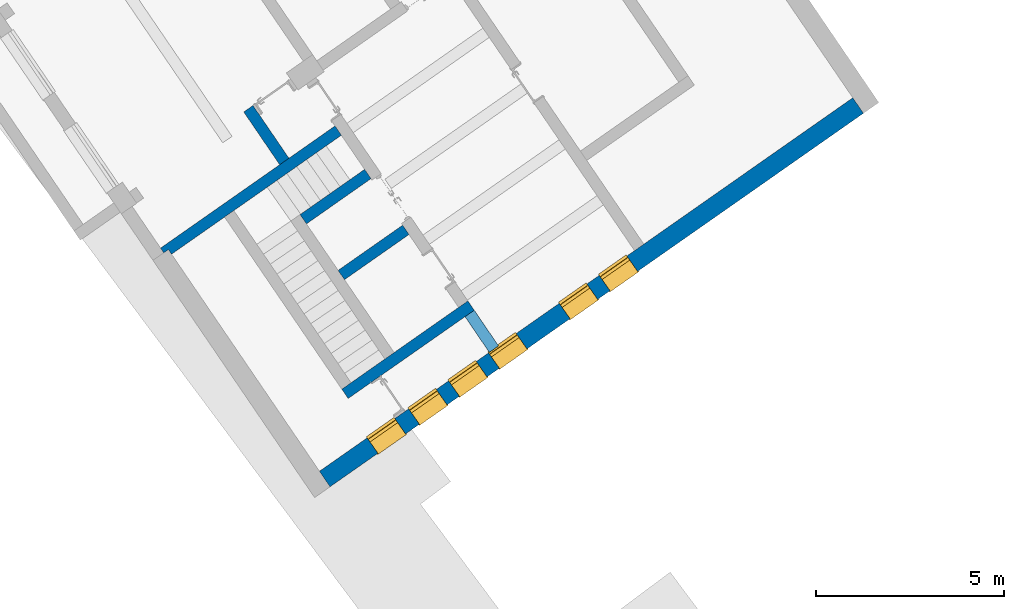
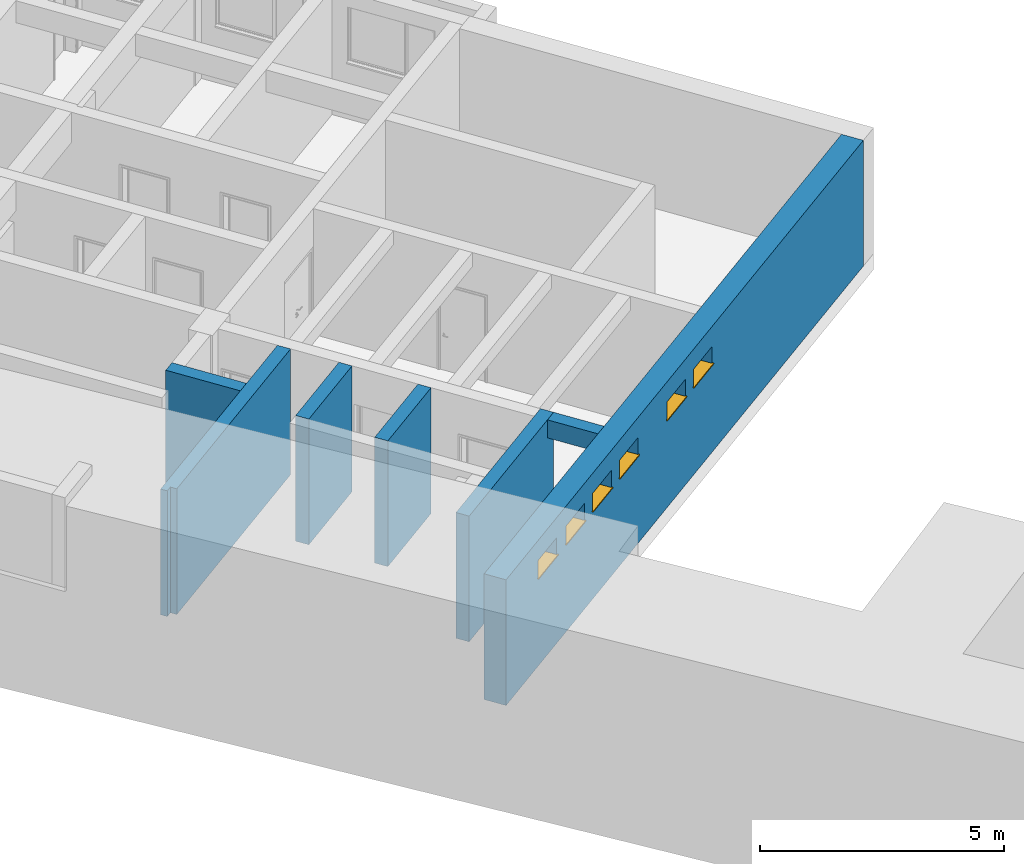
# One storey, part 40 of 112: 7 walls, 6 windows, 6 openings.
"""IFC2X3 building model written with IfcOpenShell, lengths in millimetres."""

import ifcopenshell
import ifcopenshell.guid

model = None  # the IFC model being written
_history = None  # IfcOwnerHistory: only IFC2X3 demands one
_inside = {}  # id of a spatial element -> (the spatial element, [elements in it])
_under = {}  # id of a project, library or spatial element -> (it, [spatial elements below it])
_declared = {}  # id of a project -> (the project, [libraries it declares])
_typed = {}  # id of a type object -> (the type object, [elements of that type])
_made_of = {}  # id of a material, layer set ... -> (it, [elements and type objects made of it])


def new_model(schema):
    """Start an empty IFC model of exactly this schema.

    Asked for "IFC4X3", IfcOpenShell would pick the latest addendum, in which some entities
    have other attributes; the version numbers below select the first issue.
    IFC2X3 requires an IfcOwnerHistory on every rooted entity: one is made here for all.
    """
    global model, _history
    if schema == "IFC4X3":
        model = ifcopenshell.file(schema_version=(4, 3, 0, 0))
    else:
        model = ifcopenshell.file(schema=schema)
    _inside.clear()
    _under.clear()
    _declared.clear()
    _typed.clear()
    _made_of.clear()
    _history = None
    if model.schema == "IFC2X3":
        org = make("IfcOrganization", Name="unknown")
        user = make(
            "IfcPersonAndOrganization",
            ThePerson=make("IfcPerson", FamilyName="unknown"),
            TheOrganization=org,
        )
        app = make(
            "IfcApplication",
            ApplicationDeveloper=org,
            Version="unknown",
            ApplicationFullName="unknown",
            ApplicationIdentifier="unknown",
        )
        _history = make(
            "IfcOwnerHistory",
            OwningUser=user,
            OwningApplication=app,
            ChangeAction="ADDED",
            CreationDate=0,
        )
    return model


def make(cls, **values):
    """One entity of the class cls with the attributes given. An attribute that is None is left unset."""
    return model.create_entity(
        cls, **{name: value for name, value in values.items() if value is not None}
    )


def entity(cls, *values):
    """Any entity or typed value of the class cls, its attributes in the order of the schema. None: left unset."""
    e = model.create_entity(cls)
    for i, value in enumerate(values):
        if value is not None:
            e[i] = value
    return e


def rooted(cls, **values):
    """An entity with a GlobalId (a new one), such as an element, a storey or a relation."""
    return make(cls, GlobalId=ifcopenshell.guid.new(), OwnerHistory=_history, **values)


def si_unit(unit_type, name, prefix=None):
    """IfcSIUnit, for example si_unit("LENGTHUNIT", "METRE", prefix="MILLI")."""
    return make("IfcSIUnit", UnitType=unit_type, Prefix=prefix, Name=name)


def converted_unit(unit_type, name, factor, base, dimensions=None, offset=None):
    """IfcConversionBasedUnit, such as the inch: factor (a typed value) times the base unit."""
    return make(
        "IfcConversionBasedUnit"
        if offset is None
        else "IfcConversionBasedUnitWithOffset",
        ConversionOffset=offset,
        Dimensions=None
        if dimensions is None
        else entity("IfcDimensionalExponents", *dimensions),
        UnitType=unit_type,
        Name=name,
        ConversionFactor=make(
            "IfcMeasureWithUnit", ValueComponent=factor, UnitComponent=base
        ),
    )


def derived_unit(unit_type, elements):
    """IfcDerivedUnit: a product of units, each with its exponent."""
    return make(
        "IfcDerivedUnit",
        Elements=[
            make("IfcDerivedUnitElement", Unit=unit, Exponent=power)
            for unit, power in elements
        ],
        UnitType=unit_type,
    )


def assignment(units):
    """IfcUnitAssignment: the units of a project."""
    return None if units is None else make("IfcUnitAssignment", Units=units)


def point(xyz):
    """IfcCartesianPoint."""
    return None if xyz is None else make("IfcCartesianPoint", Coordinates=xyz)


def direction(xyz):
    """IfcDirection."""
    return None if xyz is None else make("IfcDirection", DirectionRatios=xyz)


def frame(location, z_axis=None, x_axis=None):
    """IfcAxis2Placement3D, a coordinate frame: its origin and axes. An axis left out is left unset."""
    return make(
        "IfcAxis2Placement3D",
        Location=point(location),
        Axis=direction(z_axis),
        RefDirection=direction(x_axis),
    )


def frame_2d(location, x_axis=None):
    """IfcAxis2Placement2D, a coordinate frame in the plane: its origin and x axis."""
    return make(
        "IfcAxis2Placement2D", Location=point(location), RefDirection=direction(x_axis)
    )


def origin():
    """The frame at (0, 0, 0) with its axes left unset."""
    return frame((0.0, 0.0, 0.0))


def place(relative_to, where):
    """IfcLocalPlacement: puts the frame where relative to a parent placement (None: the world)."""
    return make(
        "IfcLocalPlacement", PlacementRelTo=relative_to, RelativePlacement=where
    )


def context(
    kind, dimensions, precision=None, world=None, true_north=None, identifier=None
):
    """IfcGeometricRepresentationContext, for example the 3D "Model" context."""
    return make(
        "IfcGeometricRepresentationContext",
        ContextIdentifier=identifier,
        ContextType=kind,
        CoordinateSpaceDimension=dimensions,
        Precision=precision,
        WorldCoordinateSystem=world,
        TrueNorth=true_north,
    )


def subcontext(parent, identifier, kind, view, scale=None):
    """IfcGeometricRepresentationSubContext, for example "Body" below "Model"."""
    return make(
        "IfcGeometricRepresentationSubContext",
        ContextIdentifier=identifier,
        ContextType=kind,
        ParentContext=parent,
        TargetScale=scale,
        TargetView=view,
    )


def project(units=None, contexts=None):
    """IfcProject with its units and contexts."""
    return rooted(
        "IfcProject",
        Name="project",
        RepresentationContexts=contexts,
        UnitsInContext=assignment(units),
    )


def spatial(cls, under=None, at=None, **own):
    """A site, building, storey or space (cls), placed at a placement, below another one or the project."""
    s = rooted(cls, ObjectPlacement=at, **own)
    if under is not None:
        _under.setdefault(under.id(), (under, []))[1].append(s)
    return s


def polyline(points):
    """IfcPolyline through the points."""
    return make("IfcPolyline", Points=[point(p) for p in points])


def profile(cls, at=None, kind="AREA", **sizes):
    """A parametric profile (cls). Its sizes go by their IFC names, for example OverallWidth=200.0."""
    return make(cls, ProfileType=kind, Position=at, **sizes)


def rectangle(**sizes):
    """IfcRectangleProfileDef."""
    return profile("IfcRectangleProfileDef", **sizes)


def outline(outer, holes=None, kind="AREA"):
    """IfcArbitraryClosedProfileDef: a profile drawn as a closed curve; with holes, ...WithVoids."""
    if holes is None:
        return make("IfcArbitraryClosedProfileDef", ProfileType=kind, OuterCurve=outer)
    return make(
        "IfcArbitraryProfileDefWithVoids",
        ProfileType=kind,
        OuterCurve=outer,
        InnerCurves=holes,
    )


def extrude(swept, where, along, depth):
    """IfcExtrudedAreaSolid: the profile swept, set in the frame where, extruded along a direction by depth."""
    return make(
        "IfcExtrudedAreaSolid",
        SweptArea=swept,
        Position=where,
        ExtrudedDirection=direction(along),
        Depth=depth,
    )


def faces_of(points, faces, orient=None, outer=None):
    """IfcFace entities. A face is a list of loops; a loop is a list of indices into points, from 0.

    orient and outer hold one flag for each loop. By default every Orientation is true, the
    first loop of a face is its IfcFaceOuterBound and the others are IfcFaceBound.
    """
    made = []
    for i, loops in enumerate(faces):
        bounds = []
        for j, loop in enumerate(loops):
            is_outer = j == 0 if outer is None else outer[i][j]
            bounds.append(
                make(
                    "IfcFaceOuterBound" if is_outer else "IfcFaceBound",
                    Bound=make("IfcPolyLoop", Polygon=[points[k] for k in loop]),
                    Orientation=True if orient is None else orient[i][j],
                )
            )
        made.append(make("IfcFace", Bounds=bounds))
    return made


def faceted_brep(points, faces, orient=None, outer=None, voids=None):
    """IfcFacetedBrep: a solid bounded by flat faces; with voids (closed shells), ...WithVoids."""
    shared = [point(p) for p in points]
    hull = make("IfcClosedShell", CfsFaces=faces_of(shared, faces, orient, outer))
    if voids is None:
        return make("IfcFacetedBrep", Outer=hull)
    return make(
        "IfcFacetedBrepWithVoids",
        Outer=hull,
        Voids=[
            make(cls, CfsFaces=faces_of(shared, fs, o, b)) for cls, fs, o, b in voids
        ],
    )


def shape(context_of_items, identifier, shape_type, items):
    """IfcShapeRepresentation: the items that make up one representation, for example the "Body"."""
    return make(
        "IfcShapeRepresentation",
        ContextOfItems=context_of_items,
        RepresentationIdentifier=identifier,
        RepresentationType=shape_type,
        Items=items,
    )


def source(mapping_origin, context_of_items, identifier, shape_type, items):
    """IfcRepresentationMap: a shape defined once, which mapped items show again and again."""
    return make(
        "IfcRepresentationMap",
        MappingOrigin=mapping_origin,
        MappedRepresentation=shape(context_of_items, identifier, shape_type, items),
    )


def transform(
    local_origin,
    x_axis=None,
    y_axis=None,
    z_axis=None,
    scale=None,
    scale2=None,
    scale3=None,
    uniform=True,
):
    """IfcCartesianTransformationOperator3D, or its non-uniform kind. x_axis, y_axis, z_axis: its Axis1, 2, 3."""
    if uniform:
        return make(
            "IfcCartesianTransformationOperator3D",
            Axis1=direction(x_axis),
            Axis2=direction(y_axis),
            LocalOrigin=point(local_origin),
            Scale=scale,
            Axis3=direction(z_axis),
        )
    return make(
        "IfcCartesianTransformationOperator3DnonUniform",
        Axis1=direction(x_axis),
        Axis2=direction(y_axis),
        LocalOrigin=point(local_origin),
        Scale=scale,
        Axis3=direction(z_axis),
        Scale2=scale2,
        Scale3=scale3,
    )


def mapped(mapping_source, mapping_target):
    """IfcMappedItem: shows the shape of a source again, moved by a transform."""
    return make(
        "IfcMappedItem", MappingSource=mapping_source, MappingTarget=mapping_target
    )


def material(Name=None, Category=None):
    """IfcMaterial."""
    return make("IfcMaterial", Name=Name, Category=Category)


def material_list(materials):
    """IfcMaterialList."""
    return make("IfcMaterialList", Materials=materials)


def layer(
    of_material, thickness, ventilated=None, Name=None, Category=None, Priority=None
):
    """IfcMaterialLayer: one layer of a wall or slab, of a material (None: an air gap)."""
    return make(
        "IfcMaterialLayer",
        Material=of_material,
        LayerThickness=thickness,
        IsVentilated=ventilated,
        Name=Name,
        Category=Category,
        Priority=Priority,
    )


def layer_set(layers, Name=None):
    """IfcMaterialLayerSet."""
    return make("IfcMaterialLayerSet", MaterialLayers=layers, LayerSetName=Name)


def layer_usage(for_layer_set, set_direction, sense, offset, extent=None):
    """IfcMaterialLayerSetUsage: how a layer set lies in its element."""
    return make(
        "IfcMaterialLayerSetUsage",
        ForLayerSet=for_layer_set,
        LayerSetDirection=set_direction,
        DirectionSense=sense,
        OffsetFromReferenceLine=offset,
        ReferenceExtent=extent,
    )


def made_of(thing, what):
    """Note that an element or type object is made of a material, layer set ...; save() writes the relation."""
    if what is not None:
        _made_of.setdefault(what.id(), (what, []))[1].append(thing)
    return thing


def type_object(cls, material=None, **own):
    """A type object (cls), such as IfcWallType, which elements share."""
    return made_of(rooted(cls, **own), material)


def type_shapes(of_type, sources):
    """Give a type object the sources (RepresentationMaps) that its elements show as mapped items."""
    of_type.RepresentationMaps = sources


def element(
    cls,
    number,
    at=None,
    inside=None,
    cuts=None,
    type_object=None,
    material=None,
    context=None,
    identifier="Body",
    shape_type=None,
    held_by="IfcProductDefinitionShape",
    body=None,
    shapes=None,
    **own,
):
    """One element of the class cls, such as IfcWall. Its Tag is "e" and its number.

    at: its placement. inside: the storey or other place that contains it. cuts: it is an
    opening in that element (IfcRelVoidsElement). A single representation is given by context,
    identifier, shape_type and body (its items); several are given by shapes. held_by: the class
    of the entity that holds the representations. save() writes the other relations.
    """
    e = rooted(cls, Tag="e%d" % number, ObjectPlacement=at, **own)
    if body is not None:
        shapes = [shape(context, identifier, shape_type, body)]
    if shapes is not None:
        e.Representation = make(held_by, Representations=shapes)
    if inside is not None:
        _inside.setdefault(inside.id(), (inside, []))[1].append(e)
    if cuts is not None:
        rooted(
            "IfcRelVoidsElement", RelatingBuildingElement=cuts, RelatedOpeningElement=e
        )
    if type_object is not None:
        _typed.setdefault(type_object.id(), (type_object, []))[1].append(e)
    return made_of(e, material)


def fill(opening, filler):
    """IfcRelFillsElement: the door or window that sits in an opening."""
    return rooted(
        "IfcRelFillsElement",
        RelatingOpeningElement=opening,
        RelatedBuildingElement=filler,
    )


def aggregate(whole, parts):
    """IfcRelAggregates: a whole, such as a stair, and the parts it consists of."""
    return rooted("IfcRelAggregates", RelatingObject=whole, RelatedObjects=parts)


def save(model, path):
    """Write the relations noted so far, then the file.

    IfcRelAggregates (storeys below a building ...), IfcRelContainedInSpatialStructure (elements
    in a storey), IfcRelDefinesByType, IfcRelAssociatesMaterial and IfcRelDeclares: one each for
    every whole, place, type object, material and project.
    """
    for whole, parts in _under.values():
        aggregate(whole, parts)
    for where, things in _inside.values():
        rooted(
            "IfcRelContainedInSpatialStructure",
            RelatedElements=things,
            RelatingStructure=where,
        )
    for kind, things in _typed.values():
        rooted("IfcRelDefinesByType", RelatedObjects=things, RelatingType=kind)
    for what, things in _made_of.values():
        rooted("IfcRelAssociatesMaterial", RelatedObjects=things, RelatingMaterial=what)
    for by, libraries in _declared.values():
        rooted("IfcRelDeclares", RelatingContext=by, RelatedDefinitions=libraries)
    model.write(path)


model = new_model("IFC2X3")

# Units and contexts
model_context = context("Model", 3, precision=0.01, world=origin(), true_north=direction((6.123031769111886e-17, 1.0)))
body_context = subcontext(model_context, "Body", "Model", "MODEL_VIEW")
ifc_project = project(units=[si_unit("LENGTHUNIT", "METRE", prefix="MILLI"), si_unit("AREAUNIT", "SQUARE_METRE"), si_unit("VOLUMEUNIT", "CUBIC_METRE"), converted_unit("PLANEANGLEUNIT", "DEGREE", entity("IfcRatioMeasure", 0.017453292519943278), si_unit("PLANEANGLEUNIT", "RADIAN"), dimensions=[0, 0, 0, 0, 0, 0, 0]), si_unit("MASSUNIT", "GRAM", prefix="KILO"), derived_unit("MASSDENSITYUNIT", [(si_unit("MASSUNIT", "GRAM", prefix="KILO"), 1), (si_unit("LENGTHUNIT", "METRE"), -3)]), derived_unit("MOMENTOFINERTIAUNIT", [(si_unit("LENGTHUNIT", "METRE"), 4)]), si_unit("TIMEUNIT", "SECOND"), si_unit("FREQUENCYUNIT", "HERTZ"), si_unit("THERMODYNAMICTEMPERATUREUNIT", "DEGREE_CELSIUS"), derived_unit("THERMALTRANSMITTANCEUNIT", [(si_unit("MASSUNIT", "GRAM", prefix="KILO"), 1), (si_unit("THERMODYNAMICTEMPERATUREUNIT", "KELVIN"), -1), (si_unit("TIMEUNIT", "SECOND"), -3)]), derived_unit("THERMALCONDUCTANCEUNIT", [(si_unit("MASSUNIT", "GRAM", prefix="KILO"), 1), (si_unit("LENGTHUNIT", "METRE"), 1), (si_unit("THERMODYNAMICTEMPERATUREUNIT", "KELVIN"), -1), (si_unit("TIMEUNIT", "SECOND"), -3)]), derived_unit("VOLUMETRICFLOWRATEUNIT", [(si_unit("LENGTHUNIT", "METRE"), 3), (si_unit("TIMEUNIT", "SECOND"), -1)]), derived_unit("MASSFLOWRATEUNIT", [(si_unit("MASSUNIT", "GRAM", prefix="KILO"), 1), (si_unit("TIMEUNIT", "SECOND"), -1)]), derived_unit("ROTATIONALFREQUENCYUNIT", [(si_unit("TIMEUNIT", "SECOND"), -1)]), si_unit("ELECTRICCURRENTUNIT", "AMPERE"), si_unit("ELECTRICVOLTAGEUNIT", "VOLT"), si_unit("POWERUNIT", "WATT"), converted_unit("FORCEUNIT", "KIP", entity("IfcRatioMeasure", 2.088543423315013e-05), si_unit("FORCEUNIT", "NEWTON"), dimensions=[1, 1, -2, 0, 0, 0, 0]), si_unit("ILLUMINANCEUNIT", "LUX"), si_unit("LUMINOUSFLUXUNIT", "LUMEN"), si_unit("LUMINOUSINTENSITYUNIT", "CANDELA"), derived_unit("USERDEFINED", [(si_unit("MASSUNIT", "GRAM", prefix="KILO"), -1), (si_unit("LENGTHUNIT", "METRE"), -2), (si_unit("TIMEUNIT", "SECOND"), 3), (si_unit("LUMINOUSFLUXUNIT", "LUMEN"), 1)]), derived_unit("USERDEFINED", [(si_unit("MASSUNIT", "GRAM", prefix="KILO"), 1), (si_unit("LENGTHUNIT", "METRE"), 3), (si_unit("TIMEUNIT", "SECOND"), -3), (si_unit("ELECTRICCURRENTUNIT", "AMPERE"), -2)]), derived_unit("USERDEFINED", [(si_unit("LENGTHUNIT", "METRE"), 2), (si_unit("TIMEUNIT", "SECOND"), -2)]), derived_unit("SOUNDPOWERUNIT", [(si_unit("MASSUNIT", "GRAM", prefix="KILO"), 1), (si_unit("LENGTHUNIT", "METRE"), 2), (si_unit("TIMEUNIT", "SECOND"), -3)]), derived_unit("SOUNDPRESSUREUNIT", [(si_unit("MASSUNIT", "GRAM", prefix="KILO"), 1), (si_unit("LENGTHUNIT", "METRE"), -1), (si_unit("TIMEUNIT", "SECOND"), -2)]), derived_unit("LINEARVELOCITYUNIT", [(si_unit("LENGTHUNIT", "METRE"), 1), (si_unit("TIMEUNIT", "SECOND"), -1)]), si_unit("PRESSUREUNIT", "PASCAL"), derived_unit("USERDEFINED", [(si_unit("LENGTHUNIT", "METRE"), -2), (si_unit("MASSUNIT", "GRAM", prefix="KILO"), 1), (si_unit("TIMEUNIT", "SECOND"), -2)]), derived_unit("LINEARFORCEUNIT", [(si_unit("MASSUNIT", "GRAM", prefix="KILO"), 1), (si_unit("LENGTHUNIT", "METRE"), 1), (si_unit("TIMEUNIT", "SECOND"), -2), (si_unit("LENGTHUNIT", "METRE"), -1)]), derived_unit("PLANARFORCEUNIT", [(si_unit("MASSUNIT", "GRAM", prefix="KILO"), 1), (si_unit("LENGTHUNIT", "METRE"), 1), (si_unit("TIMEUNIT", "SECOND"), -2), (si_unit("LENGTHUNIT", "METRE"), -2)]), derived_unit("SPECIFICHEATCAPACITYUNIT", [(si_unit("LENGTHUNIT", "METRE"), 2), (si_unit("TIMEUNIT", "SECOND"), -2), (si_unit("THERMODYNAMICTEMPERATUREUNIT", "KELVIN"), -1)]), derived_unit("VAPORPERMEABILITYUNIT", [(si_unit("TIMEUNIT", "SECOND"), 1), (si_unit("LENGTHUNIT", "METRE"), -1)]), derived_unit("DYNAMICVISCOSITYUNIT", [(si_unit("MASSUNIT", "GRAM", prefix="KILO"), 1), (si_unit("LENGTHUNIT", "METRE"), -1), (si_unit("TIMEUNIT", "SECOND"), -1)]), derived_unit("THERMALEXPANSIONCOEFFICIENTUNIT", [(si_unit("THERMODYNAMICTEMPERATUREUNIT", "KELVIN"), -1)])], contexts=[model_context])

# Site, building, storey
site_placement = place(None, frame((0.0, 0.0, 0.0), z_axis=(0.0, 0.0, 1.0), x_axis=(0.8191520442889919, 0.5735764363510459, 0.0)))
site = spatial("IfcSite", under=ifc_project, at=site_placement, Name="Default", CompositionType="ELEMENT")
building_placement = place(site_placement, origin())
building = spatial("IfcBuilding", under=site, at=building_placement, CompositionType="ELEMENT")
storey_placement = place(building_placement, frame((0.0, 0.0, -3600.0)))
storey = spatial("IfcBuildingStorey", under=building, at=storey_placement, Name="0.UG -3.60", CompositionType="ELEMENT", Elevation=-3600.0000000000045)

# Walls
ifc_material_1 = material(Name="Analytical Wall Surface_CJC")
ifc_layer_1 = layer(ifc_material_1, 300.0)
ifc_layer_set_1 = layer_set([ifc_layer_1], Name="Basic Wall:Wand_Innen_30")
ifc_layer_usage_1 = layer_usage(ifc_layer_set_1, "AXIS2", "NEGATIVE", 150.0)
wall_type_1 = type_object("IfcWallType", Name="Basic Wall:Wand_Innen_30", PredefinedType="STANDARD", material=ifc_layer_set_1)
wall_1_placement = place(storey_placement, frame((-217783.48677520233, 59721.3589143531, 300.0), z_axis=(0.0, 0.0, 1.0), x_axis=(-1.0, 0.0, 0.0)))
element("IfcWallStandardCase", 1, at=wall_1_placement, inside=storey, type_object=wall_type_1, material=ifc_layer_usage_1, Name="Basic Wall:Wand_Innen_30", ObjectType="Basic Wall:Wand_Innen_30", context=body_context, shape_type="SweptSolid", body=[
    extrude(outline(polyline([(5675.398388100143, -150.0), (5677.33634069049, 2.227677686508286), (5527.336340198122, 3.1823967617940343), (5529.205419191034, 150.0), (3804.127103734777, 150.0), (3504.1027944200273, 150.0), (3.8191857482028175, 150.0), (0.0, -150.0), (1500.1215465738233, -150.0), (1800.1458558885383, -150.0), (5675.398388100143, -150.0)])), origin(), (0.0, 0.0, 1.0), 3150.0),
])
wall_2_placement = place(storey_placement, frame((-217726.4324487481, 52569.449476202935, 3000.0), z_axis=(0.0, 0.0, 1.0), x_axis=(0.01272958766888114, 0.9999189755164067, 0.0)))
element("IfcWallStandardCase", 2, at=wall_2_placement, inside=storey, type_object=wall_type_1, material=ifc_layer_usage_1, Name="Basic Wall:Wand_Innen_30", ObjectType="Basic Wall:Wand_Innen_30", context=body_context, shape_type="SweptSolid", body=[
    extrude(outline(polyline([(1153.9123714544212, -150.0), (1150.0931857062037, 150.0), (0.0, 150.0), (3.819185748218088, -150.0), (1153.9123714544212, -150.0)])), origin(), (0.0, 0.0, 1.0), 450.00000000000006),
])

# Wall, openings, windows
ifc_layer_2 = layer(ifc_material_1, 500.00000000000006)
ifc_layer_set_2 = layer_set([ifc_layer_2], Name="Basic Wall:Wand_Aussen_50")
ifc_layer_usage_2 = layer_usage(ifc_layer_set_2, "AXIS2", "NEGATIVE", 250.00000000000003)
wall_type_2 = type_object("IfcWallType", Name="Basic Wall:Wand_Aussen_50", PredefinedType="STANDARD", material=ifc_layer_set_2)
wall_3_placement = place(storey_placement, frame((-206050.46223060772, 52321.35891435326, 300.0), z_axis=(0.0, 0.0, 1.0), x_axis=(-1.0, 0.0, 0.0)))
wall_3 = element("IfcWallStandardCase", 3, at=wall_3_placement, inside=storey, type_object=wall_type_2, material=ifc_layer_usage_2, Name="Basic Wall:Wand_Aussen_50", ObjectType="Basic Wall:Wand_Aussen_50", context=body_context, shape_type="SweptSolid", body=[
    extrude(outline(polyline([(17351.34429791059, -250.0), (17357.70960749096, 250.0), (6.36518024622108, 250.0), (0.0, -250.0), (6800.550883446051, -250.0), (7100.5751927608, -250.0), (14576.180899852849, -250.0), (14876.205209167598, -250.0), (17351.34429791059, -250.0)])), origin(), (0.0, 0.0, 1.0), 3150.0),
])
opening_1_placement = place(wall_3_placement, frame((14450.773718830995, 250.0, 2200.0)))
opening_1 = element("IfcOpeningElement", 4, at=opening_1_placement, cuts=wall_3, Name="Windows_Sgl_Plain:90x45:1", ObjectType="Opening", context=body_context, shape_type="SweptSolid", body=[
    extrude(rectangle(XDim=450.00000000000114, YDim=900.0000000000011, at=frame_2d((225.00000000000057, 450.00000000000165), x_axis=(-1.0, 0.0))), frame((0.0, 0.0, 0.0), z_axis=(0.0, -1.0, 0.0), x_axis=(0.0, 0.0, 1.0)), (0.0, 0.0, 1.0), 500.00000000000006),
])
opening_2_placement = place(wall_3_placement, frame((9550.773718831, 250.0, 2200.0)))
opening_2 = element("IfcOpeningElement", 5, at=opening_2_placement, cuts=wall_3, Name="Windows_Sgl_Plain:90x45:1", ObjectType="Opening", context=body_context, shape_type="SweptSolid", body=[
    extrude(rectangle(XDim=450.00000000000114, YDim=900.0000000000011, at=frame_2d((225.00000000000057, 450.00000000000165), x_axis=(-1.0, 0.0))), frame((0.0, 0.0, 0.0), z_axis=(0.0, -1.0, 0.0), x_axis=(0.0, 0.0, 1.0)), (0.0, 0.0, 1.0), 500.00000000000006),
])
opening_3_placement = place(wall_3_placement, frame((8250.773718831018, 250.0, 2200.0)))
opening_3 = element("IfcOpeningElement", 6, at=opening_3_placement, cuts=wall_3, Name="Windows_Sgl_Plain:90x45:1", ObjectType="Opening", context=body_context, shape_type="SweptSolid", body=[
    extrude(rectangle(XDim=450.00000000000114, YDim=900.0000000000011, at=frame_2d((225.00000000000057, 450.00000000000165), x_axis=(-1.0, 0.0))), frame((0.0, 0.0, 0.0), z_axis=(0.0, -1.0, 0.0), x_axis=(0.0, 0.0, 1.0)), (0.0, 0.0, 1.0), 500.00000000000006),
])
opening_4_placement = place(wall_3_placement, frame((11850.773718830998, 250.0, 2200.0)))
opening_4 = element("IfcOpeningElement", 7, at=opening_4_placement, cuts=wall_3, Name="Windows_Sgl_Plain:90x45:1", ObjectType="Opening", context=body_context, shape_type="SweptSolid", body=[
    extrude(rectangle(XDim=450.00000000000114, YDim=900.0000000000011, at=frame_2d((225.00000000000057, 450.00000000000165), x_axis=(-1.0, 0.0))), frame((0.0, 0.0, 0.0), z_axis=(0.0, -1.0, 0.0), x_axis=(0.0, 0.0, 1.0)), (0.0, 0.0, 1.0), 500.00000000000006),
])
opening_5_placement = place(wall_3_placement, frame((13150.773718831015, 250.0, 2200.0)))
opening_5 = element("IfcOpeningElement", 8, at=opening_5_placement, cuts=wall_3, Name="Windows_Sgl_Plain:90x45:1", ObjectType="Opening", context=body_context, shape_type="SweptSolid", body=[
    extrude(rectangle(XDim=450.00000000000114, YDim=900.0000000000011, at=frame_2d((225.00000000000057, 450.00000000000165), x_axis=(-1.0, 0.0))), frame((0.0, 0.0, 0.0), z_axis=(0.0, -1.0, 0.0), x_axis=(0.0, 0.0, 1.0)), (0.0, 0.0, 1.0), 500.00000000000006),
])
opening_6_placement = place(wall_3_placement, frame((15800.773718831, 250.0, 2200.0)))
opening_6 = element("IfcOpeningElement", 9, at=opening_6_placement, cuts=wall_3, Name="Windows_Sgl_Plain:90x45:1", ObjectType="Opening", context=body_context, shape_type="SweptSolid", body=[
    extrude(rectangle(XDim=450.00000000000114, YDim=900.0000000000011, at=frame_2d((225.00000000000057, 450.00000000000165), x_axis=(-1.0, 0.0))), frame((0.0, 0.0, 0.0), z_axis=(0.0, -1.0, 0.0), x_axis=(0.0, 0.0, 1.0)), (0.0, 0.0, 1.0), 500.00000000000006),
])
ifc_material_2 = material(Name="Window Frame")
ifc_material_3 = material(Name="Glass")
ifc_material_list = material_list([ifc_material_2, ifc_material_3])
window_style = type_object("IfcWindowStyle", Name="Windows_Sgl_Plain:90x45", ConstructionType="NOTDEFINED", OperationType="SINGLE_PANEL", ParameterTakesPrecedence=False, Sizeable=False, material=ifc_material_list)
shared_shape = source(origin(), body_context, "Body", "Brep", [
    faceted_brep([(-25.0, -25.0, 0.0), (-25.0, 0.0, 0.0), (0.0, 0.0, 0.0), (0.0, 367.0, 0.0), (900.0, 367.0, 0.0), (900.0, 0.0, 0.0), (925.0, 0.0, 0.0), (925.0, -25.0, 0.0), (-25.0, -25.0, 25.0), (925.0, -25.0, 25.0), (925.0, 0.0, 25.0), (900.0, 0.0, 25.0), (900.0, 367.0, 25.0), (0.0, 367.0, 25.0), (0.0, 0.0, 25.0), (-25.0, 0.0, 25.0)], [[[0, 1, 2, 3, 4, 5, 6, 7]], [[8, 9, 10, 11, 12, 13, 14, 15]], [[1, 0, 8, 15]], [[2, 1, 15, 14]], [[3, 2, 14, 13]], [[4, 3, 13, 12]], [[5, 4, 12, 11]], [[6, 5, 11, 10]], [[7, 6, 10, 9]], [[0, 7, 9, 8]]]),
    faceted_brep([(0.0, 367.0, 0.0), (900.0, 367.0, 0.0), (900.0, 367.0, 450.0), (0.0, 367.0, 450.0), (60.0, 367.0, 390.0), (840.0, 367.0, 390.0), (840.0, 367.0, 75.0), (60.0, 367.0, 75.0), (0.0, 450.0, 450.0), (0.0, 450.0, 51.0), (0.0, 465.0, 49.687670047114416), (0.0, 465.0, 44.74496761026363), (0.0, 537.50000000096, 33.80888466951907), (0.0, 537.50000000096, 0.0), (900.0, 450.0, 450.0), (900.0, 450.0, 51.0), (40.0, 450.0, 410.0), (40.0, 450.0, 63.0), (860.0, 450.0, 63.0), (860.0, 450.0, 410.0), (40.0, 385.0, 410.0), (40.0, 385.0, 63.0), (60.0, 385.0, 390.0), (60.0, 385.0, 75.0), (840.0, 385.0, 75.0), (840.0, 385.0, 390.0), (860.0, 385.0, 410.0), (860.0, 385.0, 63.0), (900.0, 537.50000000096, 0.0), (900.0, 537.50000000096, 33.80888466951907), (900.0, 465.0, 44.74496761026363), (900.0, 465.0, 49.687670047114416)], [[[0, 1, 2, 3], [4, 5, 6, 7]], [[0, 3, 8, 9, 10, 11, 12, 13]], [[9, 8, 14, 15], [16, 17, 18, 19]], [[17, 16, 20, 21]], [[22, 23, 24, 25], [20, 26, 27, 21]], [[22, 4, 7, 23]], [[3, 2, 14, 8]], [[16, 19, 26, 20]], [[5, 4, 22, 25]], [[15, 14, 2, 1, 28, 29, 30, 31]], [[19, 18, 27, 26]], [[5, 25, 24, 6]], [[28, 1, 0, 13]], [[29, 28, 13, 12]], [[30, 29, 12, 11]], [[31, 30, 11, 10]], [[15, 31, 10, 9]], [[21, 27, 18, 17]], [[7, 6, 24, 23]]], outer=[[True, False], [True], [True, False], [True], [False, True], [True], [True], [True], [True], [True], [True], [True], [True], [True], [True], [True], [True], [True], [True]]),
    faceted_brep([(70.0, 414.0, 93.0), (830.0, 414.0, 93.0), (830.0, 414.0, 380.0), (70.0, 414.0, 380.0), (70.0, 438.0, 93.0), (70.0, 438.0, 380.0), (830.0, 438.0, 380.0), (830.0, 438.0, 93.0)], [[[0, 1, 2, 3]], [[4, 5, 6, 7]], [[1, 0, 4, 7]], [[2, 1, 7, 6]], [[3, 2, 6, 5]], [[0, 3, 5, 4]]]),
    faceted_brep([(30.0, 450.0, 420.0), (30.0, 455.7735026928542, 420.0), (30.0, 455.7735026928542, 53.0), (30.0, 450.0, 53.0), (40.0, 385.0, 410.0), (40.0, 450.0, 410.0), (40.0, 450.0, 63.0), (40.0, 385.0, 63.0), (80.0, 399.4928998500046, 370.0), (69.85196227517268, 385.0, 380.1480377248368), (69.85196227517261, 385.0, 92.85196227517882), (80.0, 399.49289985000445, 103.0), (80.0, 414.0, 370.0), (80.0, 414.0, 103.0), (70.0, 438.0, 380.0), (70.0, 414.0, 380.0), (70.0, 414.0, 93.0), (70.0, 438.0, 93.0), (80.0, 455.7735026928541, 370.0), (80.0, 438.0, 370.0), (80.0, 438.0, 103.0), (80.0, 455.7735026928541, 103.0), (62.55424519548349, 461.5470053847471, 387.4457548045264), (62.554245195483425, 461.54700538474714, 85.5542451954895), (40.784609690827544, 461.54700538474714, 409.2153903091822), (40.784609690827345, 461.5470053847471, 63.78460969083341), (870.0, 455.77350269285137, 53.0), (870.0, 450.0, 53.0), (860.0, 450.0, 63.0), (860.0, 385.0, 63.0), (830.1480377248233, 385.0, 92.85196227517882), (820.0, 399.492899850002, 103.0), (820.0, 414.0, 103.0), (830.0, 414.0, 93.0), (830.0, 438.0, 93.0), (820.0, 438.0, 103.0), (820.0, 455.77350269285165, 103.0), (837.4457548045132, 461.5470053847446, 85.55424519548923), (859.2153903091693, 461.54700538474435, 63.78460969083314), (870.0, 455.77350269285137, 420.0), (870.0, 450.0, 420.0), (860.0, 450.0, 410.0), (860.0, 385.0, 410.0), (830.1480377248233, 385.0, 380.1480377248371), (820.0, 399.492899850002, 370.0), (820.0, 414.0, 370.0), (830.0, 414.0, 380.0), (830.0, 438.0, 380.0), (820.0, 438.0, 370.0), (820.0, 455.77350269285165, 370.0), (837.4457548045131, 461.5470053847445, 387.4457548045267), (859.215390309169, 461.5470053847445, 409.2153903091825)], [[[0, 1, 2, 3]], [[4, 5, 6, 7]], [[8, 9, 10, 11]], [[12, 8, 11, 13]], [[14, 15, 16, 17]], [[18, 19, 20, 21]], [[22, 18, 21, 23]], [[1, 24, 25, 2]], [[3, 2, 26, 27]], [[7, 6, 28, 29]], [[11, 10, 30, 31]], [[13, 11, 31, 32]], [[17, 16, 33, 34]], [[21, 20, 35, 36]], [[23, 21, 36, 37]], [[2, 25, 38, 26]], [[27, 26, 39, 40]], [[29, 28, 41, 42]], [[31, 30, 43, 44]], [[32, 31, 44, 45]], [[34, 33, 46, 47]], [[36, 35, 48, 49]], [[37, 36, 49, 50]], [[26, 38, 51, 39]], [[40, 39, 1, 0]], [[3, 27, 40, 0], [5, 41, 28, 6]], [[42, 41, 5, 4]], [[7, 29, 42, 4], [9, 43, 30, 10]], [[44, 43, 9, 8]], [[45, 44, 8, 12]], [[13, 32, 45, 12], [15, 46, 33, 16]], [[47, 46, 15, 14]], [[17, 34, 47, 14], [19, 48, 35, 20]], [[49, 48, 19, 18]], [[50, 49, 18, 22]], [[23, 37, 50, 22], [24, 51, 38, 25]], [[39, 51, 24, 1]]], outer=[[True], [True], [True], [True], [True], [True], [True], [True], [True], [True], [True], [True], [True], [True], [True], [True], [True], [True], [True], [True], [True], [True], [True], [True], [True], [True, False], [True], [True, False], [True], [True], [False, True], [True], [True, False], [True], [True], [False, True], [True]]),
])
type_shapes(window_style, [shared_shape])
window_1_placement = place(opening_2_placement, frame((0.0, 0.0, 0.0), z_axis=(0.0, 0.0, 1.0), x_axis=(-1.0, 0.0, 0.0)))
window_1 = element("IfcWindow", 10, at=window_1_placement, inside=storey, type_object=window_style, material=ifc_material_list, Name="Windows_Sgl_Plain:90x45", ObjectType="Windows_Sgl_Plain:90x45", OverallHeight=450.00000000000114, OverallWidth=900.0000000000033, context=body_context, shape_type="MappedRepresentation", body=[
    mapped(shared_shape, transform((0.0, 0.0, 0.0), scale=1.0)),
])
fill(opening_2, window_1)
window_2_placement = place(opening_3_placement, frame((0.0, 0.0, 0.0), z_axis=(0.0, 0.0, 1.0), x_axis=(-1.0, 0.0, 0.0)))
window_2 = element("IfcWindow", 11, at=window_2_placement, inside=storey, type_object=window_style, material=ifc_material_list, Name="Windows_Sgl_Plain:90x45", ObjectType="Windows_Sgl_Plain:90x45", OverallHeight=450.00000000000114, OverallWidth=900.0000000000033, context=body_context, shape_type="MappedRepresentation", body=[
    mapped(shared_shape, transform((0.0, 0.0, 0.0), scale=1.0)),
])
fill(opening_3, window_2)
window_3_placement = place(opening_4_placement, frame((0.0, 0.0, 0.0), z_axis=(0.0, 0.0, 1.0), x_axis=(-1.0, 0.0, 0.0)))
window_3 = element("IfcWindow", 12, at=window_3_placement, inside=storey, type_object=window_style, material=ifc_material_list, Name="Windows_Sgl_Plain:90x45", ObjectType="Windows_Sgl_Plain:90x45", OverallHeight=450.00000000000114, OverallWidth=900.0000000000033, context=body_context, shape_type="MappedRepresentation", body=[
    mapped(shared_shape, transform((0.0, 0.0, 0.0), scale=1.0)),
])
fill(opening_4, window_3)
window_4_placement = place(opening_5_placement, frame((0.0, 0.0, 0.0), z_axis=(0.0, 0.0, 1.0), x_axis=(-1.0, 0.0, 0.0)))
window_4 = element("IfcWindow", 13, at=window_4_placement, inside=storey, type_object=window_style, material=ifc_material_list, Name="Windows_Sgl_Plain:90x45", ObjectType="Windows_Sgl_Plain:90x45", OverallHeight=450.00000000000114, OverallWidth=900.0000000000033, context=body_context, shape_type="MappedRepresentation", body=[
    mapped(shared_shape, transform((0.0, 0.0, 0.0), scale=1.0)),
])
fill(opening_5, window_4)
window_5_placement = place(opening_1_placement, frame((0.0, 0.0, 0.0), z_axis=(0.0, 0.0, 1.0), x_axis=(-1.0, 0.0, 0.0)))
window_5 = element("IfcWindow", 14, at=window_5_placement, inside=storey, type_object=window_style, material=ifc_material_list, Name="Windows_Sgl_Plain:90x45", ObjectType="Windows_Sgl_Plain:90x45", OverallHeight=450.00000000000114, OverallWidth=900.0000000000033, context=body_context, shape_type="MappedRepresentation", body=[
    mapped(shared_shape, transform((0.0, 0.0, 0.0), scale=1.0)),
])
fill(opening_1, window_5)
window_6_placement = place(opening_6_placement, frame((0.0, 0.0, 0.0), z_axis=(0.0, 0.0, 1.0), x_axis=(-1.0, 0.0, 0.0)))
window_6 = element("IfcWindow", 15, at=window_6_placement, inside=storey, type_object=window_style, material=ifc_material_list, Name="Windows_Sgl_Plain:90x45", ObjectType="Windows_Sgl_Plain:90x45", OverallHeight=450.00000000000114, OverallWidth=900.0000000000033, context=body_context, shape_type="MappedRepresentation", body=[
    mapped(shared_shape, transform((0.0, 0.0, 0.0), scale=1.0)),
])
fill(opening_6, window_6)

# Walls
ifc_layer_3 = layer(ifc_material_1, 300.0)
ifc_layer_set_3 = layer_set([ifc_layer_3], Name="Basic Wall:Wand_Aussen_30")
ifc_layer_usage_3 = layer_usage(ifc_layer_set_3, "AXIS2", "NEGATIVE", 150.0)
wall_type_3 = type_object("IfcWallType", Name="Basic Wall:Wand_Aussen_30", PredefinedType="STANDARD", material=ifc_layer_set_3)
wall_4_placement = place(storey_placement, frame((-217557.93658797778, 53871.35891435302, 300.0), z_axis=(0.0, 0.0, 1.0), x_axis=(-1.0, 0.0, 0.0)))
element("IfcWallStandardCase", 16, at=wall_4_placement, inside=storey, type_object=wall_type_3, material=ifc_layer_usage_3, Name="Basic Wall:Wand_Aussen_30", ObjectType="Basic Wall:Wand_Aussen_30", context=body_context, shape_type="SweptSolid", body=[
    extrude(outline(polyline([(4100.3322273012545, -150.0), (4104.1514130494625, 150.0), (3354.0906397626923, 150.0), (3054.066330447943, 150.0), (3.819185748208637, 150.0), (0.0, -150.0), (300.0243093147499, -150.0), (2400.194644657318, -150.0), (2700.218949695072, -150.0), (3800.307917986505, -150.0), (4100.3322273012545, -150.0)])), origin(), (0.0, 0.0, 1.0), 3150.000000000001),
])
wall_5_placement = place(storey_placement, frame((-219905.30895846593, 58320.9545528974, 300.0)))
element("IfcWallStandardCase", 17, at=wall_5_placement, inside=storey, type_object=wall_type_3, material=ifc_layer_usage_3, Name="Basic Wall:Wand_Aussen_30", ObjectType="Basic Wall:Wand_Aussen_30", context=body_context, shape_type="SweptSolid", body=[
    extrude(outline(polyline([(2100.1749829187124, -150.0), (2103.994168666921, 150.0), (3.8188497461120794, 150.0), (0.0, -150.0), (2100.1749829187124, -150.0)])), origin(), (0.0, 0.0, 1.0), 3150.0),
])
wall_6_placement = place(storey_placement, frame((-219928.21690962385, 56521.35891435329, 300.0)))
element("IfcWallStandardCase", 18, at=wall_6_placement, inside=storey, type_object=wall_type_3, material=ifc_layer_usage_3, Name="Basic Wall:Wand_Aussen_30", ObjectType="Basic Wall:Wand_Aussen_30", context=body_context, shape_type="SweptSolid", body=[
    extrude(outline(polyline([(2100.1729673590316, -150.0), (2103.99215310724, 150.0), (3.818849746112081, 150.0), (0.0, -150.0), (2100.1729673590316, -150.0)])), origin(), (0.0, 0.0, 1.0), 3150.0),
])
wall_7_placement = place(storey_placement, frame((-219433.6447847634, 59869.449476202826, 300.0), z_axis=(0.0, 0.0, 1.0), x_axis=(0.012729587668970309, 0.9999189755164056, 0.0)))
element("IfcWallStandardCase", 19, at=wall_7_placement, inside=storey, type_object=wall_type_3, material=ifc_layer_usage_3, Name="Basic Wall:Wand_Aussen_30", ObjectType="Basic Wall:Wand_Aussen_30", context=body_context, shape_type="SweptSolid", body=[
    extrude(outline(polyline([(1703.9569385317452, -150.0), (1700.1377527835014, 150.0), (0.0, 150.0), (3.8191857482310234, -150.0), (1403.9326292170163, -150.0), (1703.9569385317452, -150.0)])), origin(), (0.0, 0.0, 1.0), 3150.0),
])

save(model, "model.ifc")
